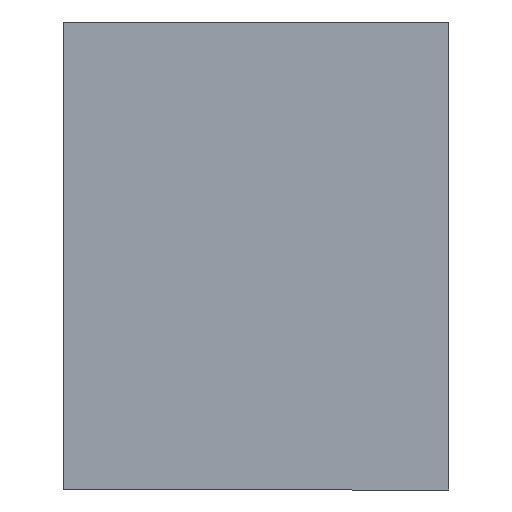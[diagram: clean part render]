
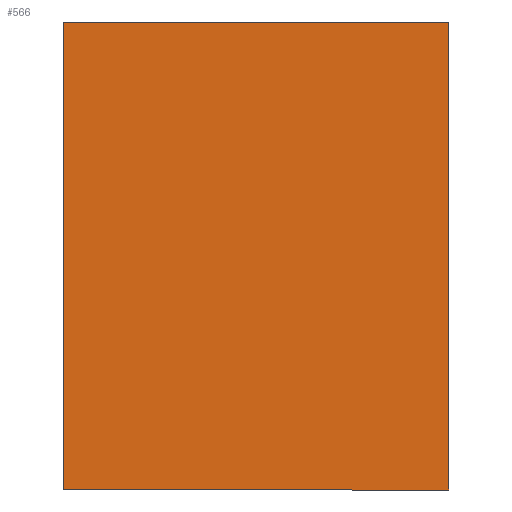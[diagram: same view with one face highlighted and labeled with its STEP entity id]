
A CAD part, left-side view. The second image highlights one B-rep face of the part: STEP entity #566.
In plain terms, the highlighted planar face has unit normal (-1, 0, 0) as drawn and (1, 0, 0) by its records, which use the part's own axes.
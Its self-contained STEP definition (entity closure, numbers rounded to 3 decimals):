
#23 = ORIENTED_EDGE ( 'NONE', *, *, #111, .T. ) ;
#25 = ORIENTED_EDGE ( 'NONE', *, *, #437, .T. ) ;
#28 = VERTEX_POINT ( 'NONE', #319 ) ;
#98 = CARTESIAN_POINT ( 'NONE',  ( 17., 0., 14. ) ) ;
#111 = EDGE_CURVE ( 'NONE', #792, #225, #503, .T. ) ;
#118 = DIRECTION ( 'NONE',  ( -1., 0., 0. ) ) ;
#139 = VECTOR ( 'NONE', #911, 1000. ) ;
#140 = LINE ( 'NONE', #717, #297 ) ;
#144 = AXIS2_PLACEMENT_3D ( 'NONE', #473, #118, #461 ) ;
#150 = EDGE_CURVE ( 'NONE', #28, #734, #581, .T. ) ;
#162 = DIRECTION ( 'NONE',  ( 0., 1., 0. ) ) ;
#209 = EDGE_LOOP ( 'NONE', ( #25, #804, #484, #23 ) ) ;
#225 = VERTEX_POINT ( 'NONE', #701 ) ;
#297 = VECTOR ( 'NONE', #162, 1000. ) ;
#319 = CARTESIAN_POINT ( 'NONE',  ( 17., 17., 14. ) ) ;
#326 = LINE ( 'NONE', #98, #139 ) ;
#340 = VECTOR ( 'NONE', #733, 1000. ) ;
#341 = CARTESIAN_POINT ( 'NONE',  ( 17., 17., 0. ) ) ;
#376 = DIRECTION ( 'NONE',  ( 0., 0., -1. ) ) ;
#437 = EDGE_CURVE ( 'NONE', #225, #734, #140, .T. ) ;
#461 = DIRECTION ( 'NONE',  ( 0., 0., 1. ) ) ;
#473 = CARTESIAN_POINT ( 'NONE',  ( 17., 0., 14. ) ) ;
#484 = ORIENTED_EDGE ( 'NONE', *, *, #496, .F. ) ;
#486 = CARTESIAN_POINT ( 'NONE',  ( 17., 0., 14. ) ) ;
#496 = EDGE_CURVE ( 'NONE', #792, #28, #326, .T. ) ;
#503 = LINE ( 'NONE', #739, #340 ) ;
#522 = CARTESIAN_POINT ( 'NONE',  ( 17., 17., 14. ) ) ;
#566 = ADVANCED_FACE ( 'NONE', ( #732 ), #749, .F. ) ;
#581 = LINE ( 'NONE', #522, #754 ) ;
#701 = CARTESIAN_POINT ( 'NONE',  ( 17., 0., 0. ) ) ;
#717 = CARTESIAN_POINT ( 'NONE',  ( 17., 0., 0. ) ) ;
#732 = FACE_OUTER_BOUND ( 'NONE', #209, .T. ) ;
#733 = DIRECTION ( 'NONE',  ( 0., 0., -1. ) ) ;
#734 = VERTEX_POINT ( 'NONE', #341 ) ;
#739 = CARTESIAN_POINT ( 'NONE',  ( 17., 0., 14. ) ) ;
#749 = PLANE ( 'NONE',  #144 ) ;
#754 = VECTOR ( 'NONE', #376, 1000. ) ;
#792 = VERTEX_POINT ( 'NONE', #486 ) ;
#804 = ORIENTED_EDGE ( 'NONE', *, *, #150, .F. ) ;
#911 = DIRECTION ( 'NONE',  ( 0., 1., 0. ) ) ;
